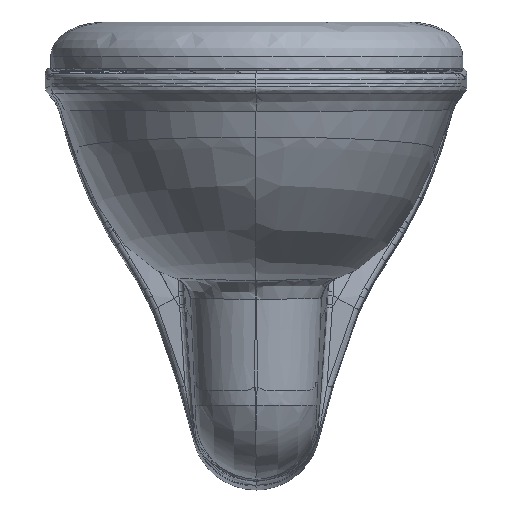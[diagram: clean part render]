
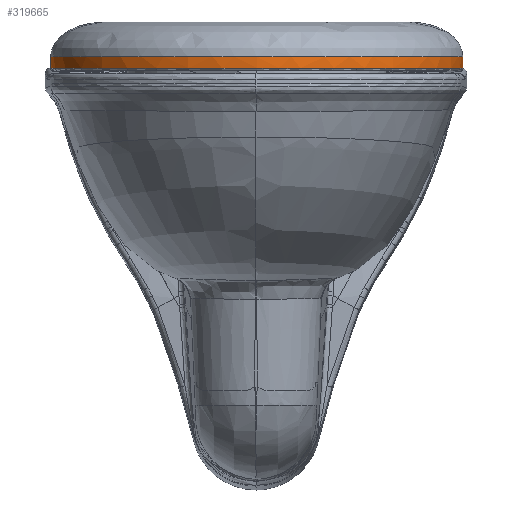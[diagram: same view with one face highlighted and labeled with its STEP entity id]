
A CAD part, top view. The second image highlights one B-rep face of the part: STEP entity #319665.
In plain terms, the highlighted cylindrical face has radius 178.5 mm (diameter 357 mm), a partial arc.
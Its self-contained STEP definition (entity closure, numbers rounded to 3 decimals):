
#9757 = EDGE_CURVE ( 'NONE', #154191, #221283, #134619, .T. ) ;
#17636 = CARTESIAN_POINT ( 'NONE',  ( 106.049, 44.63, 109.049 ) ) ;
#19611 = CARTESIAN_POINT ( 'NONE',  ( -171.171, 34.63, 117.31 ) ) ;
#20945 = CARTESIAN_POINT ( 'NONE',  ( -179.432, 44.63, 109.049 ) ) ;
#21105 = CARTESIAN_POINT ( 'NONE',  ( 141.808, 44.63, -0.648 ) ) ;
#22849 = CARTESIAN_POINT ( 'NONE',  ( 10.03, 44.63, 173.206 ) ) ;
#23086 = CARTESIAN_POINT ( 'NONE',  ( -215.192, 34.63, -0.648 ) ) ;
#23248 = AXIS2_PLACEMENT_3D ( 'NONE', #30532, #347462, #265664 ) ;
#24293 = CARTESIAN_POINT ( 'NONE',  ( 20.824, 34.63, 168.736 ) ) ;
#26045 = CARTESIAN_POINT ( 'NONE',  ( -25.009, 34.63, 177.852 ) ) ;
#26588 = CARTESIAN_POINT ( 'NONE',  ( -145.575, 34.63, 141.279 ) ) ;
#27785 = CARTESIAN_POINT ( 'NONE',  ( 141.808, 34.63, -0.648 ) ) ;
#28161 = CARTESIAN_POINT ( 'NONE',  ( -36.692, 34.63, 177.852 ) ) ;
#28824 = CARTESIAN_POINT ( 'NONE',  ( -215.192, 44.63, -0.648 ) ) ;
#30532 = CARTESIAN_POINT ( 'NONE',  ( -36.692, 74.63, -0.648 ) ) ;
#34720 = VERTEX_POINT ( 'NONE', #303396 ) ;
#40623 = CARTESIAN_POINT ( 'NONE',  ( -126.588, 44.63, 155.323 ) ) ;
#42165 = B_SPLINE_CURVE_WITH_KNOTS ( 'NONE', 3,
 ( #234634, #76442, #350083, #46265, #346575, #188298, #78199, #26588, #186521, #19611, #103073, #213196, #53265, #159859, #101338, #321661, #184788, #23086 ),
 .UNSPECIFIED., .F., .F.,
 ( 4, 2, 2, 2, 2, 2, 2, 2, 4 ),
 ( 0., 0.125, 0.25, 0.375, 0.5, 0.625, 0.75, 0.875, 1. ),
 .UNSPECIFIED. ) ;
#42298 = CARTESIAN_POINT ( 'NONE',  ( 141.808, 34.63, -0.648 ) ) ;
#43214 = ORIENTED_EDGE ( 'NONE', *, *, #339641, .T. ) ;
#45063 = EDGE_CURVE ( 'NONE', #182711, #34720, #151087, .T. ) ;
#46265 = CARTESIAN_POINT ( 'NONE',  ( -82.974, 34.63, 172.143 ) ) ;
#52723 = CARTESIAN_POINT ( 'NONE',  ( 123.75, 34.63, 78.455 ) ) ;
#53265 = CARTESIAN_POINT ( 'NONE',  ( -197.134, 34.63, 78.455 ) ) ;
#54032 = CARTESIAN_POINT ( 'NONE',  ( -215.192, 34.63, -0.648 ) ) ;
#56234 = CARTESIAN_POINT ( 'NONE',  ( 97.788, 34.63, 117.31 ) ) ;
#60263 = VERTEX_POINT ( 'NONE', #297715 ) ;
#70826 = CARTESIAN_POINT ( 'NONE',  ( -36.692, 44.63, 177.852 ) ) ;
#72729 = CARTESIAN_POINT ( 'NONE',  ( 137.162, 44.63, 46.074 ) ) ;
#76442 = CARTESIAN_POINT ( 'NONE',  ( -48.375, 34.63, 177.852 ) ) ;
#78199 = CARTESIAN_POINT ( 'NONE',  ( -126.147, 34.63, 154.26 ) ) ;
#81992 = EDGE_CURVE ( 'NONE', #34720, #221332, #342237, .T. ) ;
#82169 = CARTESIAN_POINT ( 'NONE',  ( -215.192, 34.63, -0.648 ) ) ;
#95885 = CARTESIAN_POINT ( 'NONE',  ( -36.692, 44.63, 177.852 ) ) ;
#96957 = EDGE_CURVE ( 'NONE', #221332, #60263, #155718, .T. ) ;
#101338 = CARTESIAN_POINT ( 'NONE',  ( -209.483, 34.63, 45.634 ) ) ;
#103073 = CARTESIAN_POINT ( 'NONE',  ( -178.619, 34.63, 108.235 ) ) ;
#108793 = CARTESIAN_POINT ( 'NONE',  ( -215.192, 41.297, -0.648 ) ) ;
#113016 = CARTESIAN_POINT ( 'NONE',  ( 52.764, 34.63, 154.26 ) ) ;
#134619 = B_SPLINE_CURVE_WITH_KNOTS ( 'NONE', 3,
 ( #27785, #162800, #139657, #159311, #274771, #52723, #269501, #349533, #56234, #271244, #192997, #113016, #324607, #24293, #136130, #187737, #26045, #244561 ),
 .UNSPECIFIED., .F., .F.,
 ( 4, 2, 2, 2, 2, 2, 2, 2, 4 ),
 ( 0., 0.125, 0.25, 0.375, 0.5, 0.625, 0.75, 0.875, 1. ),
 .UNSPECIFIED. ) ;
#136130 = CARTESIAN_POINT ( 'NONE',  ( 9.59, 34.63, 172.143 ) ) ;
#139657 = CARTESIAN_POINT ( 'NONE',  ( 140.658, 34.63, 22.718 ) ) ;
#151087 = B_SPLINE_CURVE_WITH_KNOTS ( 'NONE', 3,
 ( #82169, #325641, #108793, #28824 ),
 .UNSPECIFIED., .F., .F.,
 ( 4, 4 ),
 ( 0., 1. ),
 .UNSPECIFIED. ) ;
#152486 = CARTESIAN_POINT ( 'NONE',  ( -215.192, 44.63, -0.648 ) ) ;
#154191 = VERTEX_POINT ( 'NONE', #42298 ) ;
#154225 = CARTESIAN_POINT ( 'NONE',  ( -192.663, 44.63, 89.248 ) ) ;
#155718 = B_SPLINE_CURVE_WITH_KNOTS ( 'NONE', 3,
 ( #95885, #236133, #22849, #262798, #214695, #17636, #344596, #72729, #264550, #21105 ),
 .UNSPECIFIED., .F., .F.,
 ( 4, 2, 2, 2, 4 ),
 ( 0., 0.25, 0.5, 0.75, 1. ),
 .UNSPECIFIED. ) ;
#157499 = CARTESIAN_POINT ( 'NONE',  ( 141.808, 44.63, -0.648 ) ) ;
#159311 = CARTESIAN_POINT ( 'NONE',  ( 136.099, 34.63, 45.634 ) ) ;
#159859 = CARTESIAN_POINT ( 'NONE',  ( -206.075, 34.63, 56.868 ) ) ;
#162800 = CARTESIAN_POINT ( 'NONE',  ( 141.808, 34.63, 11.035 ) ) ;
#177497 = ORIENTED_EDGE ( 'NONE', *, *, #96957, .F. ) ;
#182711 = VERTEX_POINT ( 'NONE', #54032 ) ;
#184788 = CARTESIAN_POINT ( 'NONE',  ( -215.192, 34.63, 11.035 ) ) ;
#186521 = CARTESIAN_POINT ( 'NONE',  ( -154.649, 34.63, 133.832 ) ) ;
#187737 = CARTESIAN_POINT ( 'NONE',  ( -13.327, 34.63, 176.702 ) ) ;
#188298 = CARTESIAN_POINT ( 'NONE',  ( -115.794, 34.63, 159.794 ) ) ;
#192997 = CARTESIAN_POINT ( 'NONE',  ( 72.191, 34.63, 141.279 ) ) ;
#202898 = ORIENTED_EDGE ( 'NONE', *, *, #9757, .F. ) ;
#204076 = CARTESIAN_POINT ( 'NONE',  ( -146.388, 44.63, 142.093 ) ) ;
#205829 = CARTESIAN_POINT ( 'NONE',  ( -215.192, 44.63, 22.722 ) ) ;
#209932 = EDGE_CURVE ( 'NONE', #221283, #182711, #42165, .T. ) ;
#212587 = CARTESIAN_POINT ( 'NONE',  ( 141.808, 37.963, -0.648 ) ) ;
#213196 = CARTESIAN_POINT ( 'NONE',  ( -191.6, 34.63, 88.808 ) ) ;
#214695 = CARTESIAN_POINT ( 'NONE',  ( 73.005, 44.63, 142.093 ) ) ;
#217838 = ORIENTED_EDGE ( 'NONE', *, *, #81992, .F. ) ;
#221283 = VERTEX_POINT ( 'NONE', #28161 ) ;
#221332 = VERTEX_POINT ( 'NONE', #328504 ) ;
#227007 = ORIENTED_EDGE ( 'NONE', *, *, #209932, .F. ) ;
#234634 = CARTESIAN_POINT ( 'NONE',  ( -36.692, 34.63, 177.852 ) ) ;
#235764 = CARTESIAN_POINT ( 'NONE',  ( 141.808, 34.63, -0.648 ) ) ;
#236133 = CARTESIAN_POINT ( 'NONE',  ( -13.326, 44.63, 177.852 ) ) ;
#244561 = CARTESIAN_POINT ( 'NONE',  ( -36.692, 34.63, 177.852 ) ) ;
#252685 = ORIENTED_EDGE ( 'NONE', *, *, #45063, .F. ) ;
#256176 = EDGE_LOOP ( 'NONE', ( #217838, #252685, #227007, #202898, #43214, #177497 ) ) ;
#262798 = CARTESIAN_POINT ( 'NONE',  ( 53.204, 44.63, 155.323 ) ) ;
#264550 = CARTESIAN_POINT ( 'NONE',  ( 141.808, 44.63, 22.722 ) ) ;
#265664 = DIRECTION ( 'NONE',  ( 0., 0., -1. ) ) ;
#267414 = CYLINDRICAL_SURFACE ( 'NONE', #23248, 178.5 ) ;
#269501 = CARTESIAN_POINT ( 'NONE',  ( 118.216, 34.63, 88.808 ) ) ;
#271244 = CARTESIAN_POINT ( 'NONE',  ( 81.266, 34.63, 133.832 ) ) ;
#274008 = FACE_OUTER_BOUND ( 'NONE', #256176, .T. ) ;
#274771 = CARTESIAN_POINT ( 'NONE',  ( 132.691, 34.63, 56.868 ) ) ;
#297715 = CARTESIAN_POINT ( 'NONE',  ( 141.808, 44.63, -0.648 ) ) ;
#303396 = CARTESIAN_POINT ( 'NONE',  ( -215.192, 44.63, -0.648 ) ) ;
#319313 = CARTESIAN_POINT ( 'NONE',  ( 141.808, 41.297, -0.648 ) ) ;
#319665 = ADVANCED_FACE ( 'NONE', ( #274008 ), #267414, .T. ) ;
#321661 = CARTESIAN_POINT ( 'NONE',  ( -214.041, 34.63, 22.718 ) ) ;
#324186 = B_SPLINE_CURVE_WITH_KNOTS ( 'NONE', 3,
 ( #235764, #212587, #319313, #157499 ),
 .UNSPECIFIED., .F., .F.,
 ( 4, 4 ),
 ( 0., 1. ),
 .UNSPECIFIED. ) ;
#324607 = CARTESIAN_POINT ( 'NONE',  ( 42.411, 34.63, 159.794 ) ) ;
#325641 = CARTESIAN_POINT ( 'NONE',  ( -215.192, 37.963, -0.648 ) ) ;
#328504 = CARTESIAN_POINT ( 'NONE',  ( -36.692, 44.63, 177.852 ) ) ;
#339205 = CARTESIAN_POINT ( 'NONE',  ( -60.057, 44.63, 177.852 ) ) ;
#339641 = EDGE_CURVE ( 'NONE', #154191, #60263, #324186, .T. ) ;
#340958 = CARTESIAN_POINT ( 'NONE',  ( -83.414, 44.63, 173.206 ) ) ;
#342237 = B_SPLINE_CURVE_WITH_KNOTS ( 'NONE', 3,
 ( #152486, #205829, #346182, #154225, #20945, #204076, #40623, #340958, #339205, #70826 ),
 .UNSPECIFIED., .F., .F.,
 ( 4, 2, 2, 2, 4 ),
 ( 0., 0.25, 0.5, 0.75, 1. ),
 .UNSPECIFIED. ) ;
#344596 = CARTESIAN_POINT ( 'NONE',  ( 119.279, 44.63, 89.248 ) ) ;
#346182 = CARTESIAN_POINT ( 'NONE',  ( -210.546, 44.63, 46.074 ) ) ;
#346575 = CARTESIAN_POINT ( 'NONE',  ( -94.207, 34.63, 168.736 ) ) ;
#347462 = DIRECTION ( 'NONE',  ( 0., -1., 0. ) ) ;
#349533 = CARTESIAN_POINT ( 'NONE',  ( 105.235, 34.63, 108.235 ) ) ;
#350083 = CARTESIAN_POINT ( 'NONE',  ( -60.057, 34.63, 176.702 ) ) ;
